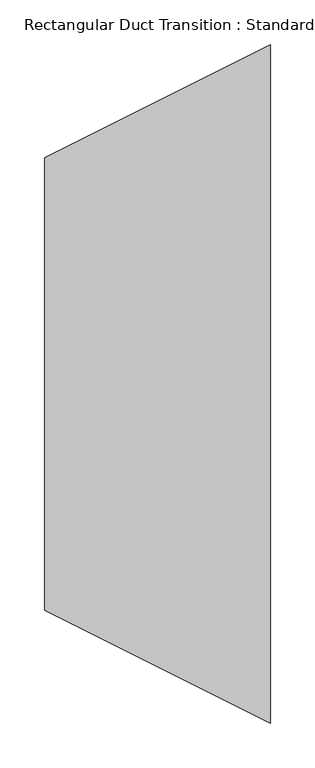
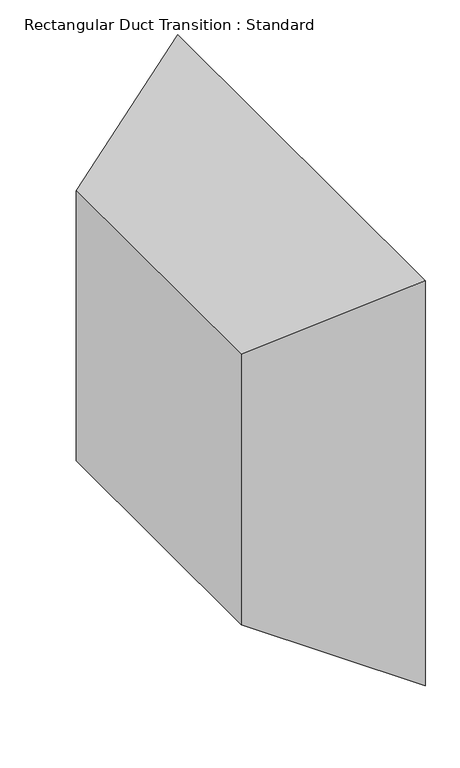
"""IFC4 building model written with IfcOpenShell, lengths in millimetres: duct fitting geometry, Rectangular Duct Transition : Standard."""

from ifc_helpers import new_model, si_unit, origin, place, context, project, spatial, faceted_brep, source, transform, mapped, element, save


def rectangular_duct_transition_standard_80c6b62c(model_context):
    return source(origin(), model_context, "Body", "Brep", [
        faceted_brep([(254.0, -381.0, 381.0), (254.0, -381.0, -381.0), (254.0, 381.0, -381.0), (254.0, 381.0, 381.0), (0.0, -254.0, 254.0), (0.0, 254.0, 254.0), (0.0, 254.0, -254.0), (0.0, -254.0, -254.0)], [[[0, 1, 2, 3]], [[4, 5, 6, 7]], [[4, 7, 1, 0]], [[7, 6, 2, 1]], [[6, 5, 3, 2]], [[5, 4, 0, 3]]]),
        faceted_brep([(254.0, -381.0, 381.0), (254.0, -381.0, -381.0), (254.0, 381.0, -381.0), (254.0, 381.0, 381.0), (0.0, -254.0, 254.0), (0.0, 254.0, 254.0), (0.0, 254.0, -254.0), (0.0, -254.0, -254.0)], [[[0, 1, 2, 3]], [[4, 5, 6, 7]], [[4, 7, 1, 0]], [[7, 6, 2, 1]], [[6, 5, 3, 2]], [[5, 4, 0, 3]]]),
        faceted_brep([(254.0, -381.0, 381.0), (254.0, -381.0, -381.0), (254.0, 381.0, -381.0), (254.0, 381.0, 381.0), (0.0, -254.0, 254.0), (0.0, 254.0, 254.0), (0.0, 254.0, -254.0), (0.0, -254.0, -254.0)], [[[0, 1, 2, 3]], [[4, 5, 6, 7]], [[4, 7, 1, 0]], [[7, 6, 2, 1]], [[6, 5, 3, 2]], [[5, 4, 0, 3]]]),
    ])


if __name__ == "__main__":
    model = new_model("IFC4")
    model_context = context("Model", 3, world=origin())
    ifc_project = project(units=[si_unit("LENGTHUNIT", "METRE", prefix="MILLI")], contexts=[model_context])
    site = spatial("IfcSite", under=ifc_project)
    building = spatial("IfcBuilding", under=site)
    placement = place(None, origin())
    rectangular_duct_transition_standard_shape = rectangular_duct_transition_standard_80c6b62c(model_context)
    element("IfcDuctFitting", 1, ObjectType="Rectangular Duct Transition : Standard", at=placement, inside=building, context=model_context, shape_type="MappedRepresentation", body=[
        mapped(rectangular_duct_transition_standard_shape, transform((0.0, 0.0, 0.0), x_axis=(1.0, 0.0, 0.0), y_axis=(0.0, 1.0, 0.0), z_axis=(0.0, 0.0, 1.0))),
    ])
    save(model, "model.ifc")
